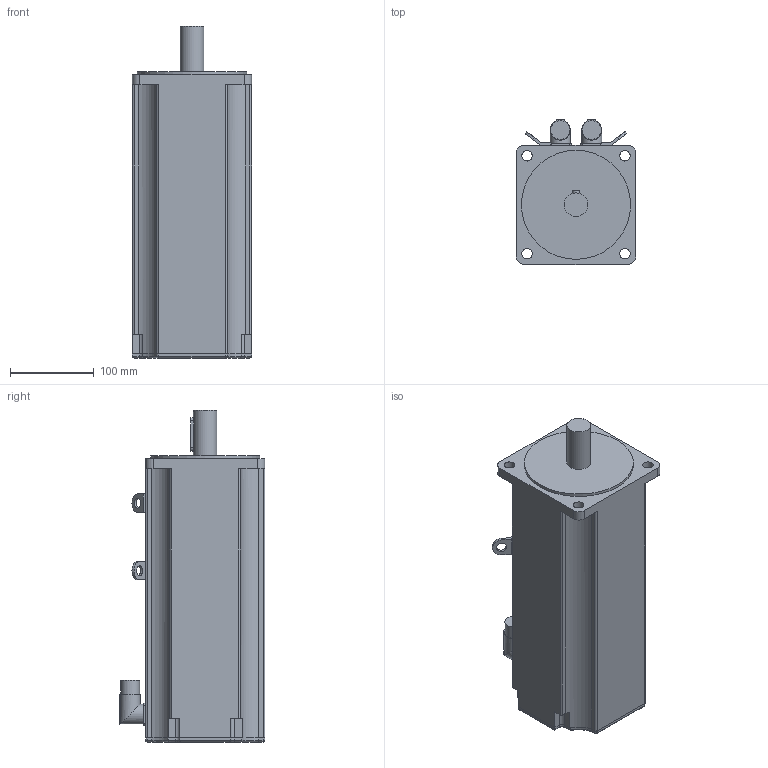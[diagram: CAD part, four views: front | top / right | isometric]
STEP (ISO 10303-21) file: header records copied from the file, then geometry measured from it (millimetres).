
FILE_DESCRIPTION(/* description */ (''),/* implementation_level */ '2;1');
FILE_NAME(/* name */ '\\Lafnas01\disegni\Archivi Lafert\3D\CAD 3D\MODELLI\Assiemi clienti\Serad\Modelli 3D Serad\B71Q\Encoder\Enc Without Brake\B7129Qxx6ARx2033.ipt.stp',/* time_stamp */ '2015-09-07T10:52:44+02:00',/* author */ ('Pastrello Ylenia'),/* organization */ (''),/* preprocessor_version */ 'ST-DEVELOPER v15.6',/* originating_system */ 'Autodesk Inventor 2015',/* authorisation */ '');
FILE_SCHEMA (('AUTOMOTIVE_DESIGN { 1 0 10303 214 3 1 1 }'));
Length unit declared in the file: millimetre
Products named in the file (1): B7129Qxx6ARx2033
Bounding box: 142 x 173.5 x 395.5 mm (x, y, z)
Volume: 6014692.4 mm3; surface area: 233469.3 mm2
Topology: 1 solids, 1 shells, 172 faces, 450 edges, 290 vertices
Faces by surface type: plane 86, cylinder 74, torus 8, sphere 4
Full cylindrical faces by diameter (mm): 12 x2, 12.5 x4, 22.7 x2, 24 x2, 28 x1, 130 x1
Entity records: 5354 total; most frequent: CARTESIAN_POINT 1031, DIRECTION 920, ORIENTED_EDGE 868, EDGE_CURVE 434, AXIS2_PLACEMENT_3D 323, VERTEX_POINT 286, LINE 274, VECTOR 274
